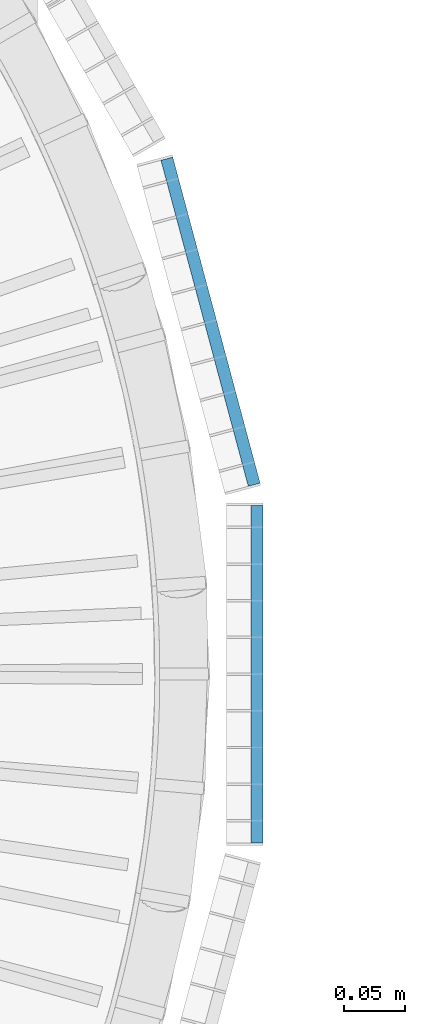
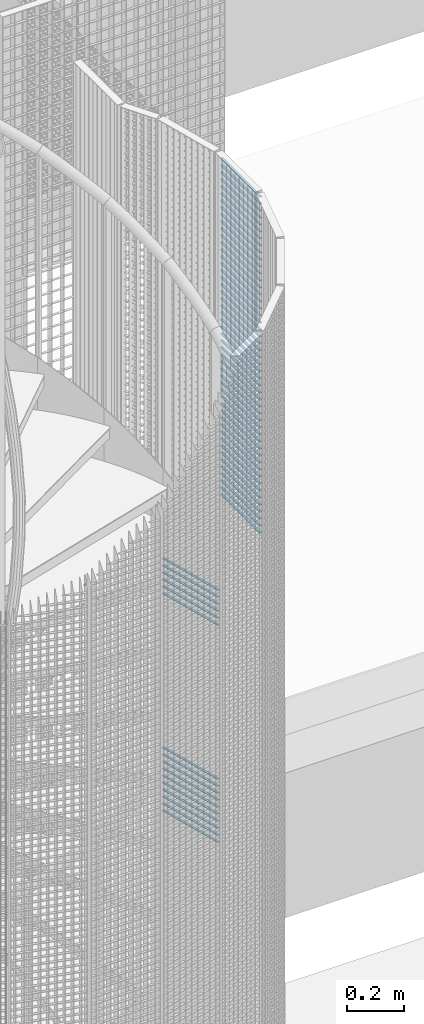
# One storey, part 277 of 1183: 65 beams, 2 elements without a shape of their own.
"""IFC2X3 building model written with IfcOpenShell, lengths in millimetres."""

from ifc_helpers import new_model, si_unit, frame, origin_with_axes, origin_2d_with_axis, place, context, subcontext, project, spatial, rectangle, extrude, material, type_object, element, aggregate, save


model = new_model("IFC2X3")

# Units and contexts
model_context = context("Model", 3, precision=1e-05, world=origin_with_axes())
body_context = subcontext(model_context, "Body", "Model", "MODEL_VIEW")
ifc_project = project(units=[si_unit("LENGTHUNIT", "METRE", prefix="MILLI"), si_unit("AREAUNIT", "SQUARE_METRE"), si_unit("VOLUMEUNIT", "CUBIC_METRE"), si_unit("MASSUNIT", "GRAM", prefix="KILO"), si_unit("TIMEUNIT", "SECOND"), si_unit("PLANEANGLEUNIT", "RADIAN"), si_unit("SOLIDANGLEUNIT", "STERADIAN"), si_unit("THERMODYNAMICTEMPERATUREUNIT", "DEGREE_CELSIUS"), si_unit("LUMINOUSINTENSITYUNIT", "LUMEN")], contexts=[model_context])

# Site, building, storey
site_placement = place(None, origin_with_axes())
site = spatial("IfcSite", under=ifc_project, at=site_placement, Name="Undefined", CompositionType="ELEMENT")
building_placement = place(site_placement, origin_with_axes())
building = spatial("IfcBuilding", under=site, at=building_placement, Name="Undefined", CompositionType="ELEMENT")
storey_placement = place(building_placement, origin_with_axes())
storey = spatial("IfcBuildingStorey", under=building, at=storey_placement, Name="Undefined", CompositionType="ELEMENT", Elevation=0.0)

# Assembly, beams
assembly_1_placement = place(storey_placement, origin_with_axes())
assembly_1 = element("IfcElementAssembly", 1, at=assembly_1_placement, inside=storey, Name="BORDURE", AssemblyPlace="NOTDEFINED", PredefinedType="NOTDEFINED")
ifc_material = material(Name="STEEL/S235JR")
beam_type = type_object("IfcBeamType", Name="PL2*10", PredefinedType="NOTDEFINED")
beam_1_placement = place(assembly_1_placement, frame((1111.25508286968, 154.895926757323, 15960.0), z_axis=(0.965925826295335, 0.258819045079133, 0.0), x_axis=(-0.258819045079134, 0.965925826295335, 0.0)))
beam_1 = element("IfcBeam", 2, at=beam_1_placement, type_object=beam_type, material=ifc_material, Name="ENTRETOISE", context=body_context, shape_type="SweptSolid", body=[
    extrude(rectangle(XDim=2.0, YDim=10.0, at=origin_2d_with_axis()), frame((275.999999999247, 9.09494701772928e-13, 1.53210777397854e-14), z_axis=(-1.0, 0.0, 0.0), x_axis=(0.0, -1.0, 0.0)), (0.0, 0.0, 1.0), 276.0),
])
beam_2_placement = place(assembly_1_placement, frame((1111.25508286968, 154.895926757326, 15300.0), z_axis=(0.965925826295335, 0.258819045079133, 0.0), x_axis=(-0.258819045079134, 0.965925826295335, 0.0)))
beam_2 = element("IfcBeam", 3, at=beam_2_placement, type_object=beam_type, material=ifc_material, Name="ENTRETOISE", context=body_context, shape_type="SweptSolid", body=[
    extrude(rectangle(XDim=2.0, YDim=10.0, at=origin_2d_with_axis()), frame((275.999999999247, 9.09494701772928e-13, 1.53210777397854e-14), z_axis=(-1.0, 0.0, 0.0), x_axis=(0.0, -1.0, 0.0)), (0.0, 0.0, 1.0), 276.0),
])
beam_3_placement = place(assembly_1_placement, frame((1111.25508286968, 154.895926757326, 15270.0), z_axis=(0.965925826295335, 0.258819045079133, 0.0), x_axis=(-0.258819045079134, 0.965925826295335, 0.0)))
beam_3 = element("IfcBeam", 4, at=beam_3_placement, type_object=beam_type, material=ifc_material, Name="ENTRETOISE", context=body_context, shape_type="SweptSolid", body=[
    extrude(rectangle(XDim=2.0, YDim=10.0, at=origin_2d_with_axis()), frame((275.999999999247, 9.09494701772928e-13, 1.53210777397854e-14), z_axis=(-1.0, 0.0, 0.0), x_axis=(0.0, -1.0, 0.0)), (0.0, 0.0, 1.0), 276.0),
])
beam_4_placement = place(assembly_1_placement, frame((1111.25508286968, 154.895926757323, 15990.0), z_axis=(0.965925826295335, 0.258819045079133, 0.0), x_axis=(-0.258819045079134, 0.965925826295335, 0.0)))
beam_4 = element("IfcBeam", 5, at=beam_4_placement, type_object=beam_type, material=ifc_material, Name="ENTRETOISE", context=body_context, shape_type="SweptSolid", body=[
    extrude(rectangle(XDim=2.0, YDim=10.0, at=origin_2d_with_axis()), frame((275.999999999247, 9.09494701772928e-13, 1.53210777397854e-14), z_axis=(-1.0, 0.0, 0.0), x_axis=(0.0, -1.0, 0.0)), (0.0, 0.0, 1.0), 276.0),
])
beam_5_placement = place(assembly_1_placement, frame((1111.25508286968, 154.895926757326, 15240.0), z_axis=(0.965925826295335, 0.258819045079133, 0.0), x_axis=(-0.258819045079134, 0.965925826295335, 0.0)))
beam_5 = element("IfcBeam", 6, at=beam_5_placement, type_object=beam_type, material=ifc_material, Name="ENTRETOISE", context=body_context, shape_type="SweptSolid", body=[
    extrude(rectangle(XDim=2.0, YDim=10.0, at=origin_2d_with_axis()), frame((275.999999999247, 9.09494701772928e-13, 1.53210777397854e-14), z_axis=(-1.0, 0.0, 0.0), x_axis=(0.0, -1.0, 0.0)), (0.0, 0.0, 1.0), 276.0),
])
beam_6_placement = place(assembly_1_placement, frame((1111.25508286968, 154.895926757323, 16020.0), z_axis=(0.965925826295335, 0.258819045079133, 0.0), x_axis=(-0.258819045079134, 0.965925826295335, 0.0)))
beam_6 = element("IfcBeam", 7, at=beam_6_placement, type_object=beam_type, material=ifc_material, Name="ENTRETOISE", context=body_context, shape_type="SweptSolid", body=[
    extrude(rectangle(XDim=2.0, YDim=10.0, at=origin_2d_with_axis()), frame((275.999999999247, 9.09494701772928e-13, 1.53210777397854e-14), z_axis=(-1.0, 0.0, 0.0), x_axis=(0.0, -1.0, 0.0)), (0.0, 0.0, 1.0), 276.0),
])
beam_7_placement = place(assembly_1_placement, frame((1111.25508286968, 154.895926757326, 15210.0), z_axis=(0.965925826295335, 0.258819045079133, 0.0), x_axis=(-0.258819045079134, 0.965925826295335, 0.0)))
beam_7 = element("IfcBeam", 8, at=beam_7_placement, type_object=beam_type, material=ifc_material, Name="ENTRETOISE", context=body_context, shape_type="SweptSolid", body=[
    extrude(rectangle(XDim=2.0, YDim=10.0, at=origin_2d_with_axis()), frame((275.999999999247, 9.09494701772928e-13, 1.53210777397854e-14), z_axis=(-1.0, 0.0, 0.0), x_axis=(0.0, -1.0, 0.0)), (0.0, 0.0, 1.0), 276.0),
])
beam_8_placement = place(assembly_1_placement, frame((1111.25508286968, 154.895926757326, 15180.0), z_axis=(0.965925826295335, 0.258819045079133, 0.0), x_axis=(-0.258819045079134, 0.965925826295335, 0.0)))
beam_8 = element("IfcBeam", 9, at=beam_8_placement, type_object=beam_type, material=ifc_material, Name="ENTRETOISE", context=body_context, shape_type="SweptSolid", body=[
    extrude(rectangle(XDim=2.0, YDim=10.0, at=origin_2d_with_axis()), frame((275.999999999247, 9.09494701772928e-13, 1.53210777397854e-14), z_axis=(-1.0, 0.0, 0.0), x_axis=(0.0, -1.0, 0.0)), (0.0, 0.0, 1.0), 276.0),
])
beam_9_placement = place(assembly_1_placement, frame((1111.25508286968, 154.895926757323, 16050.0), z_axis=(0.965925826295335, 0.258819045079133, 0.0), x_axis=(-0.258819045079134, 0.965925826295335, 0.0)))
beam_9 = element("IfcBeam", 10, at=beam_9_placement, type_object=beam_type, material=ifc_material, Name="ENTRETOISE", context=body_context, shape_type="SweptSolid", body=[
    extrude(rectangle(XDim=2.0, YDim=10.0, at=origin_2d_with_axis()), frame((275.999999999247, 9.09494701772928e-13, 1.53210777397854e-14), z_axis=(-1.0, 0.0, 0.0), x_axis=(0.0, -1.0, 0.0)), (0.0, 0.0, 1.0), 276.0),
])
beam_10_placement = place(assembly_1_placement, frame((1111.25508286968, 154.895926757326, 15150.0), z_axis=(0.965925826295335, 0.258819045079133, 0.0), x_axis=(-0.258819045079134, 0.965925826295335, 0.0)))
beam_10 = element("IfcBeam", 11, at=beam_10_placement, type_object=beam_type, material=ifc_material, Name="ENTRETOISE", context=body_context, shape_type="SweptSolid", body=[
    extrude(rectangle(XDim=2.0, YDim=10.0, at=origin_2d_with_axis()), frame((275.999999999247, 9.09494701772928e-13, 1.53210777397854e-14), z_axis=(-1.0, 0.0, 0.0), x_axis=(0.0, -1.0, 0.0)), (0.0, 0.0, 1.0), 276.0),
])
beam_11_placement = place(assembly_1_placement, frame((1111.25508286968, 154.895926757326, 15120.0), z_axis=(0.965925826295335, 0.258819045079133, 0.0), x_axis=(-0.258819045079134, 0.965925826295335, 0.0)))
beam_11 = element("IfcBeam", 12, at=beam_11_placement, type_object=beam_type, material=ifc_material, Name="ENTRETOISE", context=body_context, shape_type="SweptSolid", body=[
    extrude(rectangle(XDim=2.0, YDim=10.0, at=origin_2d_with_axis()), frame((275.999999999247, 9.09494701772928e-13, 1.53210777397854e-14), z_axis=(-1.0, 0.0, 0.0), x_axis=(0.0, -1.0, 0.0)), (0.0, 0.0, 1.0), 276.0),
])
beam_12_placement = place(assembly_1_placement, frame((1111.25508286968, 154.895926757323, 16080.0), z_axis=(0.965925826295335, 0.258819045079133, 0.0), x_axis=(-0.258819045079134, 0.965925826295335, 0.0)))
beam_12 = element("IfcBeam", 13, at=beam_12_placement, type_object=beam_type, material=ifc_material, Name="ENTRETOISE", context=body_context, shape_type="SweptSolid", body=[
    extrude(rectangle(XDim=2.0, YDim=10.0, at=origin_2d_with_axis()), frame((275.999999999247, 9.09494701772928e-13, 1.53210777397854e-14), z_axis=(-1.0, 0.0, 0.0), x_axis=(0.0, -1.0, 0.0)), (0.0, 0.0, 1.0), 276.0),
])
beam_13_placement = place(assembly_1_placement, frame((1111.25508286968, 154.895926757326, 15090.0), z_axis=(0.965925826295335, 0.258819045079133, 0.0), x_axis=(-0.258819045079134, 0.965925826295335, 0.0)))
beam_13 = element("IfcBeam", 14, at=beam_13_placement, type_object=beam_type, material=ifc_material, Name="ENTRETOISE", context=body_context, shape_type="SweptSolid", body=[
    extrude(rectangle(XDim=2.0, YDim=10.0, at=origin_2d_with_axis()), frame((275.999999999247, 9.09494701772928e-13, 1.53210777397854e-14), z_axis=(-1.0, 0.0, 0.0), x_axis=(0.0, -1.0, 0.0)), (0.0, 0.0, 1.0), 276.0),
])
beam_14_placement = place(assembly_1_placement, frame((1111.25508286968, 154.895926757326, 15060.0), z_axis=(0.965925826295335, 0.258819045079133, 0.0), x_axis=(-0.258819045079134, 0.965925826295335, 0.0)))
beam_14 = element("IfcBeam", 15, at=beam_14_placement, type_object=beam_type, material=ifc_material, Name="ENTRETOISE", context=body_context, shape_type="SweptSolid", body=[
    extrude(rectangle(XDim=2.0, YDim=10.0, at=origin_2d_with_axis()), frame((275.999999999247, 9.09494701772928e-13, 1.53210777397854e-14), z_axis=(-1.0, 0.0, 0.0), x_axis=(0.0, -1.0, 0.0)), (0.0, 0.0, 1.0), 276.0),
])
beam_15_placement = place(assembly_1_placement, frame((1111.25508286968, 154.895926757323, 16110.0), z_axis=(0.965925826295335, 0.258819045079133, 0.0), x_axis=(-0.258819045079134, 0.965925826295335, 0.0)))
beam_15 = element("IfcBeam", 16, at=beam_15_placement, type_object=beam_type, material=ifc_material, Name="ENTRETOISE", context=body_context, shape_type="SweptSolid", body=[
    extrude(rectangle(XDim=2.0, YDim=10.0, at=origin_2d_with_axis()), frame((275.999999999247, 9.09494701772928e-13, 1.53210777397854e-14), z_axis=(-1.0, 0.0, 0.0), x_axis=(0.0, -1.0, 0.0)), (0.0, 0.0, 1.0), 276.0),
])
beam_16_placement = place(assembly_1_placement, frame((1111.25508286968, 154.895926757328, 15030.0), z_axis=(0.965925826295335, 0.258819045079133, 0.0), x_axis=(-0.258819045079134, 0.965925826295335, 0.0)))
beam_16 = element("IfcBeam", 17, at=beam_16_placement, type_object=beam_type, material=ifc_material, Name="ENTRETOISE", context=body_context, shape_type="SweptSolid", body=[
    extrude(rectangle(XDim=2.0, YDim=10.0, at=origin_2d_with_axis()), frame((275.999999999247, 9.09494701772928e-13, 1.53210777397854e-14), z_axis=(-1.0, 0.0, 0.0), x_axis=(0.0, -1.0, 0.0)), (0.0, 0.0, 1.0), 276.0),
])
aggregate(assembly_1, [beam_1, beam_2, beam_3, beam_4, beam_5, beam_6, beam_7, beam_8, beam_9, beam_10, beam_11, beam_12, beam_13, beam_14, beam_15, beam_16])

assembly_2_placement = place(storey_placement, origin_with_axes())
assembly_2 = element("IfcElementAssembly", 18, at=assembly_2_placement, inside=storey, Name="BORDURE", AssemblyPlace="NOTDEFINED", PredefinedType="NOTDEFINED")
beam_17_placement = place(assembly_2_placement, frame((1113.47999999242, -137.996003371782, 17970.0), z_axis=(1.0, 0.0, 0.0), x_axis=(0.0, 1.0, 0.0)))
beam_17 = element("IfcBeam", 19, at=beam_17_placement, type_object=beam_type, material=ifc_material, Name="ENTRETOISE", context=body_context, shape_type="SweptSolid", body=[
    extrude(rectangle(XDim=2.0, YDim=10.0, at=origin_2d_with_axis()), frame((275.999999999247, 9.09494701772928e-13, 1.53210777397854e-14), z_axis=(-1.0, 0.0, 0.0), x_axis=(0.0, -1.0, 0.0)), (0.0, 0.0, 1.0), 276.0),
])
beam_18_placement = place(assembly_2_placement, frame((1113.47999999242, -137.996003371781, 17940.0), z_axis=(1.0, 0.0, 0.0), x_axis=(0.0, 1.0, 0.0)))
beam_18 = element("IfcBeam", 20, at=beam_18_placement, type_object=beam_type, material=ifc_material, Name="ENTRETOISE", context=body_context, shape_type="SweptSolid", body=[
    extrude(rectangle(XDim=2.0, YDim=10.0, at=origin_2d_with_axis()), frame((275.999999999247, 9.09494701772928e-13, 1.53210777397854e-14), z_axis=(-1.0, 0.0, 0.0), x_axis=(0.0, -1.0, 0.0)), (0.0, 0.0, 1.0), 276.0),
])
beam_19_placement = place(assembly_2_placement, frame((1113.47999999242, -137.996003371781, 17910.0), z_axis=(1.0, 0.0, 0.0), x_axis=(0.0, 1.0, 0.0)))
beam_19 = element("IfcBeam", 21, at=beam_19_placement, type_object=beam_type, material=ifc_material, Name="ENTRETOISE", context=body_context, shape_type="SweptSolid", body=[
    extrude(rectangle(XDim=2.0, YDim=10.0, at=origin_2d_with_axis()), frame((275.999999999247, 9.09494701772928e-13, 1.53210777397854e-14), z_axis=(-1.0, 0.0, 0.0), x_axis=(0.0, -1.0, 0.0)), (0.0, 0.0, 1.0), 276.0),
])
beam_20_placement = place(assembly_2_placement, frame((1113.47999999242, -137.996003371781, 17880.0), z_axis=(1.0, 0.0, 0.0), x_axis=(0.0, 1.0, 0.0)))
beam_20 = element("IfcBeam", 22, at=beam_20_placement, type_object=beam_type, material=ifc_material, Name="ENTRETOISE", context=body_context, shape_type="SweptSolid", body=[
    extrude(rectangle(XDim=2.0, YDim=10.0, at=origin_2d_with_axis()), frame((275.999999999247, 9.09494701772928e-13, 1.53210777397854e-14), z_axis=(-1.0, 0.0, 0.0), x_axis=(0.0, -1.0, 0.0)), (0.0, 0.0, 1.0), 276.0),
])
beam_21_placement = place(assembly_2_placement, frame((1113.47999999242, -137.996003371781, 17850.0), z_axis=(1.0, 0.0, 0.0), x_axis=(0.0, 1.0, 0.0)))
beam_21 = element("IfcBeam", 23, at=beam_21_placement, type_object=beam_type, material=ifc_material, Name="ENTRETOISE", context=body_context, shape_type="SweptSolid", body=[
    extrude(rectangle(XDim=2.0, YDim=10.0, at=origin_2d_with_axis()), frame((275.999999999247, 9.09494701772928e-13, 1.53210777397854e-14), z_axis=(-1.0, 0.0, 0.0), x_axis=(0.0, -1.0, 0.0)), (0.0, 0.0, 1.0), 276.0),
])
beam_22_placement = place(assembly_2_placement, frame((1113.47999999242, -137.996003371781, 17820.0), z_axis=(1.0, 0.0, 0.0), x_axis=(0.0, 1.0, 0.0)))
beam_22 = element("IfcBeam", 24, at=beam_22_placement, type_object=beam_type, material=ifc_material, Name="ENTRETOISE", context=body_context, shape_type="SweptSolid", body=[
    extrude(rectangle(XDim=2.0, YDim=10.0, at=origin_2d_with_axis()), frame((275.999999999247, 9.09494701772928e-13, 1.53210777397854e-14), z_axis=(-1.0, 0.0, 0.0), x_axis=(0.0, -1.0, 0.0)), (0.0, 0.0, 1.0), 276.0),
])
beam_23_placement = place(assembly_2_placement, frame((1113.47999999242, -137.996003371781, 17790.0), z_axis=(1.0, 0.0, 0.0), x_axis=(0.0, 1.0, 0.0)))
beam_23 = element("IfcBeam", 25, at=beam_23_placement, type_object=beam_type, material=ifc_material, Name="ENTRETOISE", context=body_context, shape_type="SweptSolid", body=[
    extrude(rectangle(XDim=2.0, YDim=10.0, at=origin_2d_with_axis()), frame((275.999999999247, 9.09494701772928e-13, 1.53210777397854e-14), z_axis=(-1.0, 0.0, 0.0), x_axis=(0.0, -1.0, 0.0)), (0.0, 0.0, 1.0), 276.0),
])
beam_24_placement = place(assembly_2_placement, frame((1113.47999999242, -137.996003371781, 17760.0), z_axis=(1.0, 0.0, 0.0), x_axis=(0.0, 1.0, 0.0)))
beam_24 = element("IfcBeam", 26, at=beam_24_placement, type_object=beam_type, material=ifc_material, Name="ENTRETOISE", context=body_context, shape_type="SweptSolid", body=[
    extrude(rectangle(XDim=2.0, YDim=10.0, at=origin_2d_with_axis()), frame((275.999999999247, 9.09494701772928e-13, 1.53210777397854e-14), z_axis=(-1.0, 0.0, 0.0), x_axis=(0.0, -1.0, 0.0)), (0.0, 0.0, 1.0), 276.0),
])
beam_25_placement = place(assembly_2_placement, frame((1113.47999999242, -137.996003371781, 17730.0), z_axis=(1.0, 0.0, 0.0), x_axis=(0.0, 1.0, 0.0)))
beam_25 = element("IfcBeam", 27, at=beam_25_placement, type_object=beam_type, material=ifc_material, Name="ENTRETOISE", context=body_context, shape_type="SweptSolid", body=[
    extrude(rectangle(XDim=2.0, YDim=10.0, at=origin_2d_with_axis()), frame((275.999999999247, 9.09494701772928e-13, 1.53210777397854e-14), z_axis=(-1.0, 0.0, 0.0), x_axis=(0.0, -1.0, 0.0)), (0.0, 0.0, 1.0), 276.0),
])
beam_26_placement = place(assembly_2_placement, frame((1113.47999999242, -137.996003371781, 17700.0), z_axis=(1.0, 0.0, 0.0), x_axis=(0.0, 1.0, 0.0)))
beam_26 = element("IfcBeam", 28, at=beam_26_placement, type_object=beam_type, material=ifc_material, Name="ENTRETOISE", context=body_context, shape_type="SweptSolid", body=[
    extrude(rectangle(XDim=2.0, YDim=10.0, at=origin_2d_with_axis()), frame((275.999999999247, 9.09494701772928e-13, 1.53210777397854e-14), z_axis=(-1.0, 0.0, 0.0), x_axis=(0.0, -1.0, 0.0)), (0.0, 0.0, 1.0), 276.0),
])
beam_27_placement = place(assembly_2_placement, frame((1113.47999999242, -137.996003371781, 17670.0), z_axis=(1.0, 0.0, 0.0), x_axis=(0.0, 1.0, 0.0)))
beam_27 = element("IfcBeam", 29, at=beam_27_placement, type_object=beam_type, material=ifc_material, Name="ENTRETOISE", context=body_context, shape_type="SweptSolid", body=[
    extrude(rectangle(XDim=2.0, YDim=10.0, at=origin_2d_with_axis()), frame((275.999999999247, 9.09494701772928e-13, 1.53210777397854e-14), z_axis=(-1.0, 0.0, 0.0), x_axis=(0.0, -1.0, 0.0)), (0.0, 0.0, 1.0), 276.0),
])
beam_28_placement = place(assembly_2_placement, frame((1113.47999999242, -137.99600337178, 17640.0), z_axis=(1.0, 0.0, 0.0), x_axis=(0.0, 1.0, 0.0)))
beam_28 = element("IfcBeam", 30, at=beam_28_placement, type_object=beam_type, material=ifc_material, Name="ENTRETOISE", context=body_context, shape_type="SweptSolid", body=[
    extrude(rectangle(XDim=2.0, YDim=10.0, at=origin_2d_with_axis()), frame((275.999999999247, 9.09494701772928e-13, 1.53210777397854e-14), z_axis=(-1.0, 0.0, 0.0), x_axis=(0.0, -1.0, 0.0)), (0.0, 0.0, 1.0), 276.0),
])
beam_29_placement = place(assembly_2_placement, frame((1113.47999999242, -137.99600337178, 17610.0), z_axis=(1.0, 0.0, 0.0), x_axis=(0.0, 1.0, 0.0)))
beam_29 = element("IfcBeam", 31, at=beam_29_placement, type_object=beam_type, material=ifc_material, Name="ENTRETOISE", context=body_context, shape_type="SweptSolid", body=[
    extrude(rectangle(XDim=2.0, YDim=10.0, at=origin_2d_with_axis()), frame((275.999999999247, 9.09494701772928e-13, 1.53210777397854e-14), z_axis=(-1.0, 0.0, 0.0), x_axis=(0.0, -1.0, 0.0)), (0.0, 0.0, 1.0), 276.0),
])
beam_30_placement = place(assembly_2_placement, frame((1113.47999999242, -137.99600337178, 17580.0), z_axis=(1.0, 0.0, 0.0), x_axis=(0.0, 1.0, 0.0)))
beam_30 = element("IfcBeam", 32, at=beam_30_placement, type_object=beam_type, material=ifc_material, Name="ENTRETOISE", context=body_context, shape_type="SweptSolid", body=[
    extrude(rectangle(XDim=2.0, YDim=10.0, at=origin_2d_with_axis()), frame((275.999999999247, 9.09494701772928e-13, 1.53210777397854e-14), z_axis=(-1.0, 0.0, 0.0), x_axis=(0.0, -1.0, 0.0)), (0.0, 0.0, 1.0), 276.0),
])
beam_31_placement = place(assembly_2_placement, frame((1113.47999999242, -137.99600337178, 17550.0), z_axis=(1.0, 0.0, 0.0), x_axis=(0.0, 1.0, 0.0)))
beam_31 = element("IfcBeam", 33, at=beam_31_placement, type_object=beam_type, material=ifc_material, Name="ENTRETOISE", context=body_context, shape_type="SweptSolid", body=[
    extrude(rectangle(XDim=2.0, YDim=10.0, at=origin_2d_with_axis()), frame((275.999999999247, 9.09494701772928e-13, 1.53210777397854e-14), z_axis=(-1.0, 0.0, 0.0), x_axis=(0.0, -1.0, 0.0)), (0.0, 0.0, 1.0), 276.0),
])
beam_32_placement = place(assembly_2_placement, frame((1113.47999999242, -137.99600337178, 17520.0), z_axis=(1.0, 0.0, 0.0), x_axis=(0.0, 1.0, 0.0)))
beam_32 = element("IfcBeam", 34, at=beam_32_placement, type_object=beam_type, material=ifc_material, Name="ENTRETOISE", context=body_context, shape_type="SweptSolid", body=[
    extrude(rectangle(XDim=2.0, YDim=10.0, at=origin_2d_with_axis()), frame((275.999999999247, 9.09494701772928e-13, 1.53210777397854e-14), z_axis=(-1.0, 0.0, 0.0), x_axis=(0.0, -1.0, 0.0)), (0.0, 0.0, 1.0), 276.0),
])
beam_33_placement = place(assembly_2_placement, frame((1113.47999999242, -137.99600337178, 17490.0), z_axis=(1.0, 0.0, 0.0), x_axis=(0.0, 1.0, 0.0)))
beam_33 = element("IfcBeam", 35, at=beam_33_placement, type_object=beam_type, material=ifc_material, Name="ENTRETOISE", context=body_context, shape_type="SweptSolid", body=[
    extrude(rectangle(XDim=2.0, YDim=10.0, at=origin_2d_with_axis()), frame((275.999999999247, 9.09494701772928e-13, 1.53210777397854e-14), z_axis=(-1.0, 0.0, 0.0), x_axis=(0.0, -1.0, 0.0)), (0.0, 0.0, 1.0), 276.0),
])
beam_34_placement = place(assembly_2_placement, frame((1113.47999999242, -137.99600337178, 17460.0), z_axis=(1.0, 0.0, 0.0), x_axis=(0.0, 1.0, 0.0)))
beam_34 = element("IfcBeam", 36, at=beam_34_placement, type_object=beam_type, material=ifc_material, Name="ENTRETOISE", context=body_context, shape_type="SweptSolid", body=[
    extrude(rectangle(XDim=2.0, YDim=10.0, at=origin_2d_with_axis()), frame((275.999999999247, 9.09494701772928e-13, 1.53210777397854e-14), z_axis=(-1.0, 0.0, 0.0), x_axis=(0.0, -1.0, 0.0)), (0.0, 0.0, 1.0), 276.0),
])
beam_35_placement = place(assembly_2_placement, frame((1113.47999999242, -137.99600337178, 17430.0), z_axis=(1.0, 0.0, 0.0), x_axis=(0.0, 1.0, 0.0)))
beam_35 = element("IfcBeam", 37, at=beam_35_placement, type_object=beam_type, material=ifc_material, Name="ENTRETOISE", context=body_context, shape_type="SweptSolid", body=[
    extrude(rectangle(XDim=2.0, YDim=10.0, at=origin_2d_with_axis()), frame((275.999999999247, 9.09494701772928e-13, 1.53210777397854e-14), z_axis=(-1.0, 0.0, 0.0), x_axis=(0.0, -1.0, 0.0)), (0.0, 0.0, 1.0), 276.0),
])
beam_36_placement = place(assembly_2_placement, frame((1113.47999999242, -137.996003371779, 17400.0), z_axis=(1.0, 0.0, 0.0), x_axis=(0.0, 1.0, 0.0)))
beam_36 = element("IfcBeam", 38, at=beam_36_placement, type_object=beam_type, material=ifc_material, Name="ENTRETOISE", context=body_context, shape_type="SweptSolid", body=[
    extrude(rectangle(XDim=2.0, YDim=10.0, at=origin_2d_with_axis()), frame((275.999999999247, 9.09494701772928e-13, 1.53210777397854e-14), z_axis=(-1.0, 0.0, 0.0), x_axis=(0.0, -1.0, 0.0)), (0.0, 0.0, 1.0), 276.0),
])
beam_37_placement = place(assembly_2_placement, frame((1113.47999999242, -137.996003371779, 17370.0), z_axis=(1.0, 0.0, 0.0), x_axis=(0.0, 1.0, 0.0)))
beam_37 = element("IfcBeam", 39, at=beam_37_placement, type_object=beam_type, material=ifc_material, Name="ENTRETOISE", context=body_context, shape_type="SweptSolid", body=[
    extrude(rectangle(XDim=2.0, YDim=10.0, at=origin_2d_with_axis()), frame((275.999999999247, 9.09494701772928e-13, 1.53210777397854e-14), z_axis=(-1.0, 0.0, 0.0), x_axis=(0.0, -1.0, 0.0)), (0.0, 0.0, 1.0), 276.0),
])
beam_38_placement = place(assembly_2_placement, frame((1113.47999999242, -137.996003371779, 17340.0), z_axis=(1.0, 0.0, 0.0), x_axis=(0.0, 1.0, 0.0)))
beam_38 = element("IfcBeam", 40, at=beam_38_placement, type_object=beam_type, material=ifc_material, Name="ENTRETOISE", context=body_context, shape_type="SweptSolid", body=[
    extrude(rectangle(XDim=2.0, YDim=10.0, at=origin_2d_with_axis()), frame((275.999999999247, 9.09494701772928e-13, 1.53210777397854e-14), z_axis=(-1.0, 0.0, 0.0), x_axis=(0.0, -1.0, 0.0)), (0.0, 0.0, 1.0), 276.0),
])
beam_39_placement = place(assembly_2_placement, frame((1113.47999999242, -137.996003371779, 17310.0), z_axis=(1.0, 0.0, 0.0), x_axis=(0.0, 1.0, 0.0)))
beam_39 = element("IfcBeam", 41, at=beam_39_placement, type_object=beam_type, material=ifc_material, Name="ENTRETOISE", context=body_context, shape_type="SweptSolid", body=[
    extrude(rectangle(XDim=2.0, YDim=10.0, at=origin_2d_with_axis()), frame((275.999999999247, 9.09494701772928e-13, 1.53210777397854e-14), z_axis=(-1.0, 0.0, 0.0), x_axis=(0.0, -1.0, 0.0)), (0.0, 0.0, 1.0), 276.0),
])
beam_40_placement = place(assembly_2_placement, frame((1113.47999999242, -137.996003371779, 17280.0), z_axis=(1.0, 0.0, 0.0), x_axis=(0.0, 1.0, 0.0)))
beam_40 = element("IfcBeam", 42, at=beam_40_placement, type_object=beam_type, material=ifc_material, Name="ENTRETOISE", context=body_context, shape_type="SweptSolid", body=[
    extrude(rectangle(XDim=2.0, YDim=10.0, at=origin_2d_with_axis()), frame((275.999999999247, 9.09494701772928e-13, 1.53210777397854e-14), z_axis=(-1.0, 0.0, 0.0), x_axis=(0.0, -1.0, 0.0)), (0.0, 0.0, 1.0), 276.0),
])
beam_41_placement = place(assembly_2_placement, frame((1113.47999999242, -137.996003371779, 17250.0), z_axis=(1.0, 0.0, 0.0), x_axis=(0.0, 1.0, 0.0)))
beam_41 = element("IfcBeam", 43, at=beam_41_placement, type_object=beam_type, material=ifc_material, Name="ENTRETOISE", context=body_context, shape_type="SweptSolid", body=[
    extrude(rectangle(XDim=2.0, YDim=10.0, at=origin_2d_with_axis()), frame((275.999999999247, 9.09494701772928e-13, 1.53210777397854e-14), z_axis=(-1.0, 0.0, 0.0), x_axis=(0.0, -1.0, 0.0)), (0.0, 0.0, 1.0), 276.0),
])
beam_42_placement = place(assembly_2_placement, frame((1113.47999999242, -137.996003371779, 17220.0), z_axis=(1.0, 0.0, 0.0), x_axis=(0.0, 1.0, 0.0)))
beam_42 = element("IfcBeam", 44, at=beam_42_placement, type_object=beam_type, material=ifc_material, Name="ENTRETOISE", context=body_context, shape_type="SweptSolid", body=[
    extrude(rectangle(XDim=2.0, YDim=10.0, at=origin_2d_with_axis()), frame((275.999999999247, 9.09494701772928e-13, 1.53210777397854e-14), z_axis=(-1.0, 0.0, 0.0), x_axis=(0.0, -1.0, 0.0)), (0.0, 0.0, 1.0), 276.0),
])
beam_43_placement = place(assembly_2_placement, frame((1113.47999999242, -137.996003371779, 17190.0), z_axis=(1.0, 0.0, 0.0), x_axis=(0.0, 1.0, 0.0)))
beam_43 = element("IfcBeam", 45, at=beam_43_placement, type_object=beam_type, material=ifc_material, Name="ENTRETOISE", context=body_context, shape_type="SweptSolid", body=[
    extrude(rectangle(XDim=2.0, YDim=10.0, at=origin_2d_with_axis()), frame((275.999999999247, 9.09494701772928e-13, 1.53210777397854e-14), z_axis=(-1.0, 0.0, 0.0), x_axis=(0.0, -1.0, 0.0)), (0.0, 0.0, 1.0), 276.0),
])
beam_44_placement = place(assembly_2_placement, frame((1113.47999999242, -137.996003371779, 17160.0), z_axis=(1.0, 0.0, 0.0), x_axis=(0.0, 1.0, 0.0)))
beam_44 = element("IfcBeam", 46, at=beam_44_placement, type_object=beam_type, material=ifc_material, Name="ENTRETOISE", context=body_context, shape_type="SweptSolid", body=[
    extrude(rectangle(XDim=2.0, YDim=10.0, at=origin_2d_with_axis()), frame((275.999999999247, 9.09494701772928e-13, 1.53210777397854e-14), z_axis=(-1.0, 0.0, 0.0), x_axis=(0.0, -1.0, 0.0)), (0.0, 0.0, 1.0), 276.0),
])
beam_45_placement = place(assembly_2_placement, frame((1113.47999999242, -137.996003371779, 17130.0), z_axis=(1.0, 0.0, 0.0), x_axis=(0.0, 1.0, 0.0)))
beam_45 = element("IfcBeam", 47, at=beam_45_placement, type_object=beam_type, material=ifc_material, Name="ENTRETOISE", context=body_context, shape_type="SweptSolid", body=[
    extrude(rectangle(XDim=2.0, YDim=10.0, at=origin_2d_with_axis()), frame((275.999999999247, 9.09494701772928e-13, 1.53210777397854e-14), z_axis=(-1.0, 0.0, 0.0), x_axis=(0.0, -1.0, 0.0)), (0.0, 0.0, 1.0), 276.0),
])
beam_46_placement = place(assembly_2_placement, frame((1113.47999999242, -137.996003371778, 17100.0), z_axis=(1.0, 0.0, 0.0), x_axis=(0.0, 1.0, 0.0)))
beam_46 = element("IfcBeam", 48, at=beam_46_placement, type_object=beam_type, material=ifc_material, Name="ENTRETOISE", context=body_context, shape_type="SweptSolid", body=[
    extrude(rectangle(XDim=2.0, YDim=10.0, at=origin_2d_with_axis()), frame((275.999999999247, 9.09494701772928e-13, 1.53210777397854e-14), z_axis=(-1.0, 0.0, 0.0), x_axis=(0.0, -1.0, 0.0)), (0.0, 0.0, 1.0), 276.0),
])
beam_47_placement = place(assembly_2_placement, frame((1113.47999999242, -137.996003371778, 17070.0), z_axis=(1.0, 0.0, 0.0), x_axis=(0.0, 1.0, 0.0)))
beam_47 = element("IfcBeam", 49, at=beam_47_placement, type_object=beam_type, material=ifc_material, Name="ENTRETOISE", context=body_context, shape_type="SweptSolid", body=[
    extrude(rectangle(XDim=2.0, YDim=10.0, at=origin_2d_with_axis()), frame((275.999999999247, 9.09494701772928e-13, 1.53210777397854e-14), z_axis=(-1.0, 0.0, 0.0), x_axis=(0.0, -1.0, 0.0)), (0.0, 0.0, 1.0), 276.0),
])
beam_48_placement = place(assembly_2_placement, frame((1113.47999999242, -137.996003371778, 17040.0), z_axis=(1.0, 0.0, 0.0), x_axis=(0.0, 1.0, 0.0)))
beam_48 = element("IfcBeam", 50, at=beam_48_placement, type_object=beam_type, material=ifc_material, Name="ENTRETOISE", context=body_context, shape_type="SweptSolid", body=[
    extrude(rectangle(XDim=2.0, YDim=10.0, at=origin_2d_with_axis()), frame((275.999999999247, 9.09494701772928e-13, 1.53210777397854e-14), z_axis=(-1.0, 0.0, 0.0), x_axis=(0.0, -1.0, 0.0)), (0.0, 0.0, 1.0), 276.0),
])
beam_49_placement = place(assembly_2_placement, frame((1113.47999999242, -137.996003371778, 17010.0), z_axis=(1.0, 0.0, 0.0), x_axis=(0.0, 1.0, 0.0)))
beam_49 = element("IfcBeam", 51, at=beam_49_placement, type_object=beam_type, material=ifc_material, Name="ENTRETOISE", context=body_context, shape_type="SweptSolid", body=[
    extrude(rectangle(XDim=2.0, YDim=10.0, at=origin_2d_with_axis()), frame((275.999999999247, 9.09494701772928e-13, 1.53210777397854e-14), z_axis=(-1.0, 0.0, 0.0), x_axis=(0.0, -1.0, 0.0)), (0.0, 0.0, 1.0), 276.0),
])
beam_50_placement = place(assembly_2_placement, frame((1113.47999999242, -137.996003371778, 16980.0), z_axis=(1.0, 0.0, 0.0), x_axis=(0.0, 1.0, 0.0)))
beam_50 = element("IfcBeam", 52, at=beam_50_placement, type_object=beam_type, material=ifc_material, Name="ENTRETOISE", context=body_context, shape_type="SweptSolid", body=[
    extrude(rectangle(XDim=2.0, YDim=10.0, at=origin_2d_with_axis()), frame((275.999999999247, 9.09494701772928e-13, 1.53210777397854e-14), z_axis=(-1.0, 0.0, 0.0), x_axis=(0.0, -1.0, 0.0)), (0.0, 0.0, 1.0), 276.0),
])
beam_51_placement = place(assembly_2_placement, frame((1113.47999999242, -137.996003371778, 16950.0), z_axis=(1.0, 0.0, 0.0), x_axis=(0.0, 1.0, 0.0)))
beam_51 = element("IfcBeam", 53, at=beam_51_placement, type_object=beam_type, material=ifc_material, Name="ENTRETOISE", context=body_context, shape_type="SweptSolid", body=[
    extrude(rectangle(XDim=2.0, YDim=10.0, at=origin_2d_with_axis()), frame((275.999999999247, 9.09494701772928e-13, 1.53210777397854e-14), z_axis=(-1.0, 0.0, 0.0), x_axis=(0.0, -1.0, 0.0)), (0.0, 0.0, 1.0), 276.0),
])
beam_52_placement = place(assembly_2_placement, frame((1113.47999999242, -137.996003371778, 16920.0), z_axis=(1.0, 0.0, 0.0), x_axis=(0.0, 1.0, 0.0)))
beam_52 = element("IfcBeam", 54, at=beam_52_placement, type_object=beam_type, material=ifc_material, Name="ENTRETOISE", context=body_context, shape_type="SweptSolid", body=[
    extrude(rectangle(XDim=2.0, YDim=10.0, at=origin_2d_with_axis()), frame((275.999999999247, 9.09494701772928e-13, 1.53210777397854e-14), z_axis=(-1.0, 0.0, 0.0), x_axis=(0.0, -1.0, 0.0)), (0.0, 0.0, 1.0), 276.0),
])
beam_53_placement = place(assembly_2_placement, frame((1113.47999999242, -137.996003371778, 16890.0), z_axis=(1.0, 0.0, 0.0), x_axis=(0.0, 1.0, 0.0)))
beam_53 = element("IfcBeam", 55, at=beam_53_placement, type_object=beam_type, material=ifc_material, Name="ENTRETOISE", context=body_context, shape_type="SweptSolid", body=[
    extrude(rectangle(XDim=2.0, YDim=10.0, at=origin_2d_with_axis()), frame((275.999999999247, 9.09494701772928e-13, 1.53210777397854e-14), z_axis=(-1.0, 0.0, 0.0), x_axis=(0.0, -1.0, 0.0)), (0.0, 0.0, 1.0), 276.0),
])
beam_54_placement = place(assembly_2_placement, frame((1113.47999999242, -137.996003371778, 16860.0), z_axis=(1.0, 0.0, 0.0), x_axis=(0.0, 1.0, 0.0)))
beam_54 = element("IfcBeam", 56, at=beam_54_placement, type_object=beam_type, material=ifc_material, Name="ENTRETOISE", context=body_context, shape_type="SweptSolid", body=[
    extrude(rectangle(XDim=2.0, YDim=10.0, at=origin_2d_with_axis()), frame((275.999999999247, 9.09494701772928e-13, 1.53210777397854e-14), z_axis=(-1.0, 0.0, 0.0), x_axis=(0.0, -1.0, 0.0)), (0.0, 0.0, 1.0), 276.0),
])
beam_55_placement = place(assembly_2_placement, frame((1113.47999999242, -137.996003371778, 16830.0), z_axis=(1.0, 0.0, 0.0), x_axis=(0.0, 1.0, 0.0)))
beam_55 = element("IfcBeam", 57, at=beam_55_placement, type_object=beam_type, material=ifc_material, Name="ENTRETOISE", context=body_context, shape_type="SweptSolid", body=[
    extrude(rectangle(XDim=2.0, YDim=10.0, at=origin_2d_with_axis()), frame((275.999999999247, 9.09494701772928e-13, 1.53210777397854e-14), z_axis=(-1.0, 0.0, 0.0), x_axis=(0.0, -1.0, 0.0)), (0.0, 0.0, 1.0), 276.0),
])
beam_56_placement = place(assembly_2_placement, frame((1113.47999999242, -137.996003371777, 16800.0), z_axis=(1.0, 0.0, 0.0), x_axis=(0.0, 1.0, 0.0)))
beam_56 = element("IfcBeam", 58, at=beam_56_placement, type_object=beam_type, material=ifc_material, Name="ENTRETOISE", context=body_context, shape_type="SweptSolid", body=[
    extrude(rectangle(XDim=2.0, YDim=10.0, at=origin_2d_with_axis()), frame((275.999999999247, 9.09494701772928e-13, 1.53210777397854e-14), z_axis=(-1.0, 0.0, 0.0), x_axis=(0.0, -1.0, 0.0)), (0.0, 0.0, 1.0), 276.0),
])
beam_57_placement = place(assembly_2_placement, frame((1113.47999999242, -137.996003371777, 16770.0), z_axis=(1.0, 0.0, 0.0), x_axis=(0.0, 1.0, 0.0)))
beam_57 = element("IfcBeam", 59, at=beam_57_placement, type_object=beam_type, material=ifc_material, Name="ENTRETOISE", context=body_context, shape_type="SweptSolid", body=[
    extrude(rectangle(XDim=2.0, YDim=10.0, at=origin_2d_with_axis()), frame((275.999999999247, 9.09494701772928e-13, 1.53210777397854e-14), z_axis=(-1.0, 0.0, 0.0), x_axis=(0.0, -1.0, 0.0)), (0.0, 0.0, 1.0), 276.0),
])
beam_58_placement = place(assembly_2_placement, frame((1113.47999999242, -137.996003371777, 16740.0), z_axis=(1.0, 0.0, 0.0), x_axis=(0.0, 1.0, 0.0)))
beam_58 = element("IfcBeam", 60, at=beam_58_placement, type_object=beam_type, material=ifc_material, Name="ENTRETOISE", context=body_context, shape_type="SweptSolid", body=[
    extrude(rectangle(XDim=2.0, YDim=10.0, at=origin_2d_with_axis()), frame((275.999999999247, 9.09494701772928e-13, 1.53210777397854e-14), z_axis=(-1.0, 0.0, 0.0), x_axis=(0.0, -1.0, 0.0)), (0.0, 0.0, 1.0), 276.0),
])
beam_59_placement = place(assembly_2_placement, frame((1113.47999999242, -137.996003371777, 16710.0), z_axis=(1.0, 0.0, 0.0), x_axis=(0.0, 1.0, 0.0)))
beam_59 = element("IfcBeam", 61, at=beam_59_placement, type_object=beam_type, material=ifc_material, Name="ENTRETOISE", context=body_context, shape_type="SweptSolid", body=[
    extrude(rectangle(XDim=2.0, YDim=10.0, at=origin_2d_with_axis()), frame((275.999999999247, 9.09494701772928e-13, 1.53210777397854e-14), z_axis=(-1.0, 0.0, 0.0), x_axis=(0.0, -1.0, 0.0)), (0.0, 0.0, 1.0), 276.0),
])
beam_60_placement = place(assembly_2_placement, frame((1113.47999999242, -137.996003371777, 16680.0), z_axis=(1.0, 0.0, 0.0), x_axis=(0.0, 1.0, 0.0)))
beam_60 = element("IfcBeam", 62, at=beam_60_placement, type_object=beam_type, material=ifc_material, Name="ENTRETOISE", context=body_context, shape_type="SweptSolid", body=[
    extrude(rectangle(XDim=2.0, YDim=10.0, at=origin_2d_with_axis()), frame((275.999999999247, 9.09494701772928e-13, 1.53210777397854e-14), z_axis=(-1.0, 0.0, 0.0), x_axis=(0.0, -1.0, 0.0)), (0.0, 0.0, 1.0), 276.0),
])
beam_61_placement = place(assembly_2_placement, frame((1113.47999999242, -137.996003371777, 16650.0), z_axis=(1.0, 0.0, 0.0), x_axis=(0.0, 1.0, 0.0)))
beam_61 = element("IfcBeam", 63, at=beam_61_placement, type_object=beam_type, material=ifc_material, Name="ENTRETOISE", context=body_context, shape_type="SweptSolid", body=[
    extrude(rectangle(XDim=2.0, YDim=10.0, at=origin_2d_with_axis()), frame((275.999999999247, 9.09494701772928e-13, 1.53210777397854e-14), z_axis=(-1.0, 0.0, 0.0), x_axis=(0.0, -1.0, 0.0)), (0.0, 0.0, 1.0), 276.0),
])
beam_62_placement = place(assembly_2_placement, frame((1113.47999999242, -137.996003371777, 16620.0), z_axis=(1.0, 0.0, 0.0), x_axis=(0.0, 1.0, 0.0)))
beam_62 = element("IfcBeam", 64, at=beam_62_placement, type_object=beam_type, material=ifc_material, Name="ENTRETOISE", context=body_context, shape_type="SweptSolid", body=[
    extrude(rectangle(XDim=2.0, YDim=10.0, at=origin_2d_with_axis()), frame((275.999999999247, 9.09494701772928e-13, 1.53210777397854e-14), z_axis=(-1.0, 0.0, 0.0), x_axis=(0.0, -1.0, 0.0)), (0.0, 0.0, 1.0), 276.0),
])
beam_63_placement = place(assembly_2_placement, frame((1113.47999999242, -137.996003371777, 16590.0), z_axis=(1.0, 0.0, 0.0), x_axis=(0.0, 1.0, 0.0)))
beam_63 = element("IfcBeam", 65, at=beam_63_placement, type_object=beam_type, material=ifc_material, Name="ENTRETOISE", context=body_context, shape_type="SweptSolid", body=[
    extrude(rectangle(XDim=2.0, YDim=10.0, at=origin_2d_with_axis()), frame((275.999999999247, 9.09494701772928e-13, 1.53210777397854e-14), z_axis=(-1.0, 0.0, 0.0), x_axis=(0.0, -1.0, 0.0)), (0.0, 0.0, 1.0), 276.0),
])
beam_64_placement = place(assembly_2_placement, frame((1113.47999999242, -137.996003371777, 16560.0), z_axis=(1.0, 0.0, 0.0), x_axis=(0.0, 1.0, 0.0)))
beam_64 = element("IfcBeam", 66, at=beam_64_placement, type_object=beam_type, material=ifc_material, Name="ENTRETOISE", context=body_context, shape_type="SweptSolid", body=[
    extrude(rectangle(XDim=2.0, YDim=10.0, at=origin_2d_with_axis()), frame((275.999999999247, 9.09494701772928e-13, 1.53210777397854e-14), z_axis=(-1.0, 0.0, 0.0), x_axis=(0.0, -1.0, 0.0)), (0.0, 0.0, 1.0), 276.0),
])
beam_65_placement = place(assembly_2_placement, frame((1113.47999999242, -137.996003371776, 16530.0), z_axis=(1.0, 0.0, 0.0), x_axis=(0.0, 1.0, 0.0)))
beam_65 = element("IfcBeam", 67, at=beam_65_placement, type_object=beam_type, material=ifc_material, Name="ENTRETOISE", context=body_context, shape_type="SweptSolid", body=[
    extrude(rectangle(XDim=2.0, YDim=10.0, at=origin_2d_with_axis()), frame((275.999999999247, 9.09494701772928e-13, 1.53210777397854e-14), z_axis=(-1.0, 0.0, 0.0), x_axis=(0.0, -1.0, 0.0)), (0.0, 0.0, 1.0), 276.0),
])
aggregate(assembly_2, [beam_17, beam_18, beam_19, beam_20, beam_21, beam_22, beam_23, beam_24, beam_25, beam_26, beam_27, beam_28, beam_29, beam_30, beam_31, beam_32, beam_33, beam_34, beam_35, beam_36, beam_37, beam_38, beam_39, beam_40, beam_41, beam_42, beam_43, beam_44, beam_45, beam_46, beam_47, beam_48, beam_49, beam_50, beam_51, beam_52, beam_53, beam_54, beam_55, beam_56, beam_57, beam_58, beam_59, beam_60, beam_61, beam_62, beam_63, beam_64, beam_65])

save(model, "model.ifc")
